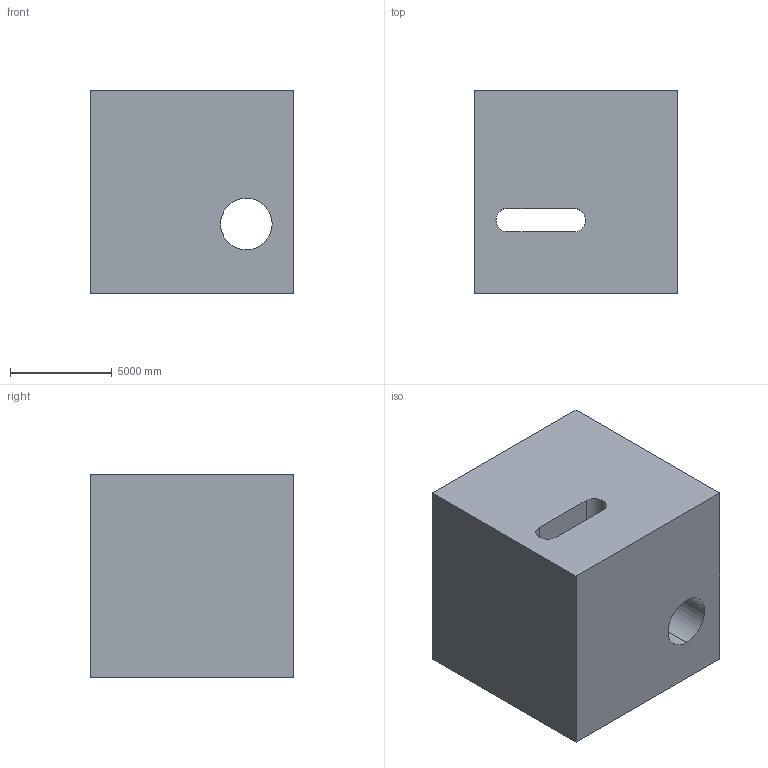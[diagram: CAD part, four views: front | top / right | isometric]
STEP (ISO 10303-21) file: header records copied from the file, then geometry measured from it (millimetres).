
FILE_DESCRIPTION (( 'STEP AP203' ), '1' );
FILE_NAME ('232.STEP', '2022-09-07T12:22:40', ( 'user' ), ( '' ), 'SwSTEP 2.0', 'SolidWorks 2021', '' );
FILE_SCHEMA (( 'CONFIG_CONTROL_DESIGN' ));
Length unit declared in the file: centimetre
Products named in the file (1): 232
Bounding box: 10000 x 10000 x 10000 mm (x, y, z)
Volume: 900847450447.2 mm3; surface area: 761489997.5 mm2
Topology: 1 solids, 1 shells, 13 faces, 33 edges, 22 vertices
Faces by surface type: plane 8, cylinder 5
Entity records: 482 total; most frequent: DIRECTION 71, CARTESIAN_POINT 69, ORIENTED_EDGE 66, EDGE_CURVE 33, AXIS2_PLACEMENT_3D 24, LINE 23, VECTOR 23, VERTEX_POINT 22
